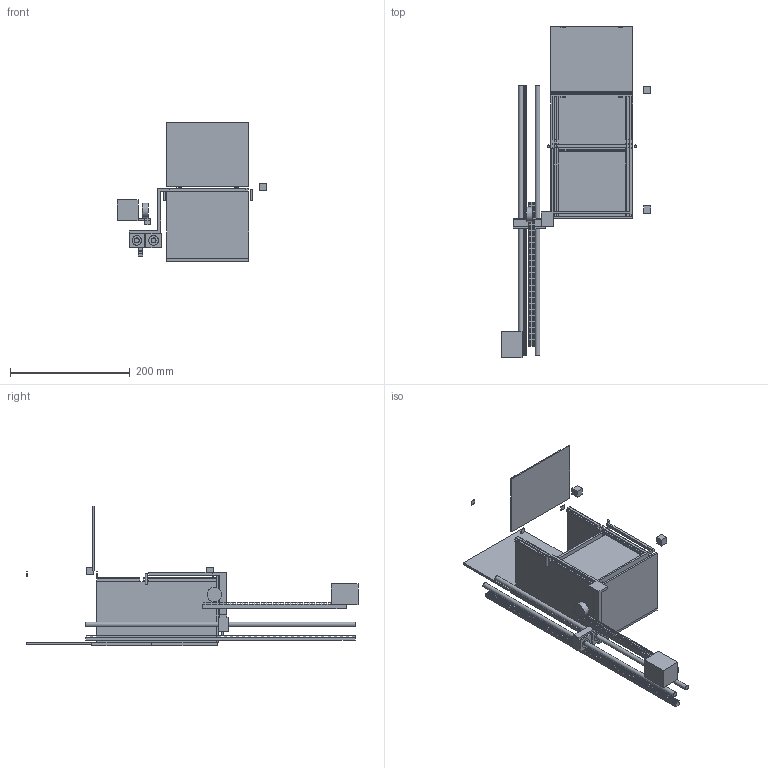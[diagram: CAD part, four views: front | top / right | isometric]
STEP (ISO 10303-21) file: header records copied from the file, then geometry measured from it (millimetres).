
FILE_DESCRIPTION(('FreeCAD Model'),'2;1');
FILE_NAME('Open CASCADE Shape Model','2026-10-19T11:24:24',('FreeCAD'),( 'FreeCAD'),'Open CASCADE STEP processor 7.8','FreeCAD','Unknown');
FILE_SCHEMA(('AUTOMOTIVE_DESIGN { 1 0 10303 214 1 1 1 1 }'));
Length unit declared in the file: millimetre
Products named in the file (1): Open CASCADE STEP translator 7.8 9
Bounding box: 250.5 x 555 x 234 mm (x, y, z)
Volume: 1925458.3 mm3; surface area: 472075.7 mm2
Topology: 29 solids, 29 shells, 1393 faces, 4002 edges, 2668 vertices
Faces by surface type: plane 1382, cylinder 11
Full cylindrical faces by diameter (mm): 4 x2, 8 x2, 8.5 x2, 16 x4, 24 x1
Entity records: 44608 total; most frequent: CARTESIAN_POINT 8064, ORIENTED_EDGE 8004, DIRECTION 6812, EDGE_CURVE 4002, LINE 3980, VECTOR 3980, VERTEX_POINT 2668, AXIS2_PLACEMENT_3D 1416
